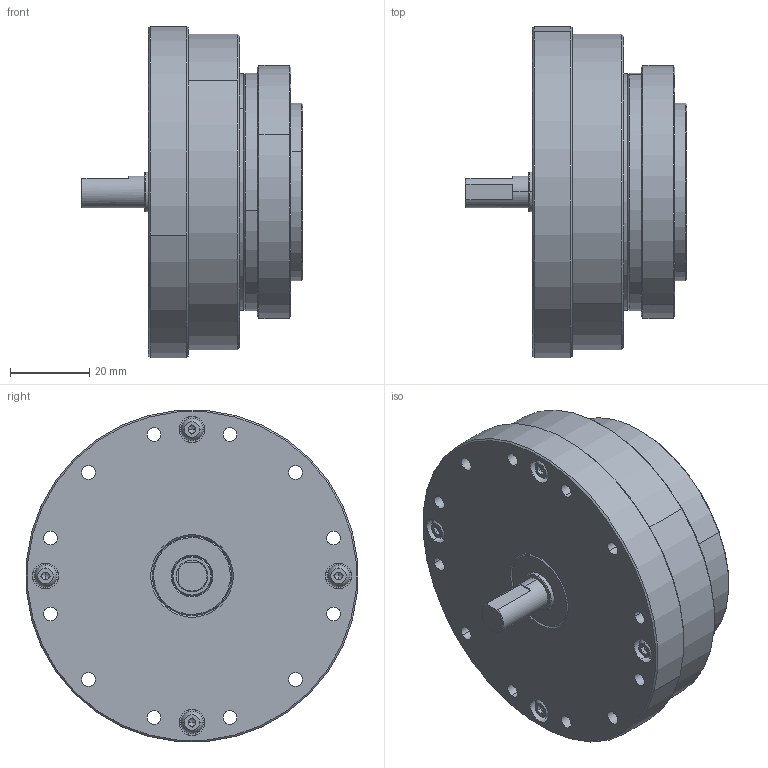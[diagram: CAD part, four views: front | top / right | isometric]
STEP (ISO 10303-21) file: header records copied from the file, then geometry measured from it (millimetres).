
FILE_DESCRIPTION (( 'STEP AP203' ), '1' );
FILE_NAME ('FHS-17-XXX-AJ.STEP', '2022-06-01T08:46:48', ( '微软用户' ), ( '微软中国' ), 'SwSTEP 2.0', 'SolidWorks 2016', '' );
FILE_SCHEMA (( 'CONFIG_CONTROL_DESIGN' ));
Length unit declared in the file: millimetre
Products named in the file (1): FHS-17-XXX-AJ
Bounding box: 56 x 83.68 x 83.68 mm (x, y, z)
Volume: 105802.1 mm3; surface area: 67907 mm2
Topology: 16 solids, 16 shells, 727 faces, 1671 edges, 1009 vertices
Faces by surface type: cylinder 341, cone 185, plane 173, torus 28
Entity records: 20664 total; most frequent: DIRECTION 3959, CARTESIAN_POINT 3414, ORIENTED_EDGE 3226, AXIS2_PLACEMENT_3D 1626, EDGE_CURVE 1613, VERTEX_POINT 1009, EDGE_LOOP 966, CIRCLE 898
